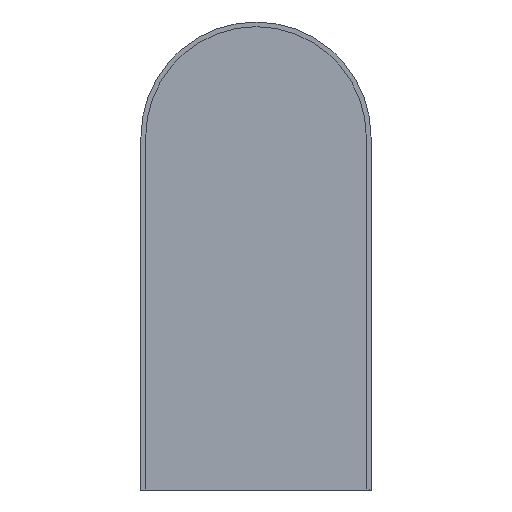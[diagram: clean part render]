
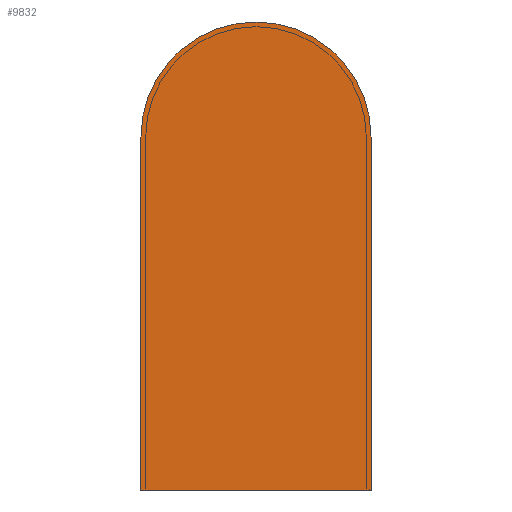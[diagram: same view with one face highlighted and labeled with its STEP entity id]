
A CAD part, left-side view. The second image highlights one B-rep face of the part: STEP entity #9832.
In plain terms, the highlighted planar face has unit normal (-1, 0, 0) as drawn and (0, -1, 0) by its records, which use the part's own axes.
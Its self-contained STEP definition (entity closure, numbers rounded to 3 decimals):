
#165=PLANE('',#10441);
#713=FACE_OUTER_BOUND('',#1285,.T.);
#1285=EDGE_LOOP('',(#7133,#7134,#7135,#7136));
#1954=LINE('',#13817,#3282);
#1959=LINE('',#13831,#3287);
#1962=LINE('',#13836,#3290);
#3282=VECTOR('',#11202,304.8);
#3287=VECTOR('',#11215,304.8);
#3290=VECTOR('',#11220,304.8);
#4576=CIRCLE('',#10436,19.25);
#4679=VERTEX_POINT('',#13815);
#4680=VERTEX_POINT('',#13816);
#4683=VERTEX_POINT('',#13824);
#4685=VERTEX_POINT('',#13830);
#5637=EDGE_CURVE('',#4679,#4680,#1954,.T.);
#5641=EDGE_CURVE('',#4683,#4679,#4576,.T.);
#5644=EDGE_CURVE('',#4685,#4683,#1959,.T.);
#5647=EDGE_CURVE('',#4680,#4685,#1962,.T.);
#7133=ORIENTED_EDGE('',*,*,#5647,.T.);
#7134=ORIENTED_EDGE('',*,*,#5644,.T.);
#7135=ORIENTED_EDGE('',*,*,#5641,.T.);
#7136=ORIENTED_EDGE('',*,*,#5637,.T.);
#9832=ADVANCED_FACE('',(#713),#165,.T.);
#10436=AXIS2_PLACEMENT_3D('',#13825,#11208,#11209);
#10441=AXIS2_PLACEMENT_3D('',#13839,#11224,#11225);
#11202=DIRECTION('',(0.,0.,-1.));
#11208=DIRECTION('center_axis',(0.,-1.,0.));
#11209=DIRECTION('ref_axis',(1.,0.,0.));
#11215=DIRECTION('',(0.,0.,1.));
#11220=DIRECTION('',(1.,0.,0.));
#11224=DIRECTION('center_axis',(0.,-1.,0.));
#11225=DIRECTION('ref_axis',(1.,0.,0.));
#13815=CARTESIAN_POINT('',(-19.25,-303.7,59.068));
#13816=CARTESIAN_POINT('',(-19.25,-303.7,0.));
#13817=CARTESIAN_POINT('',(-19.25,-303.7,59.068));
#13824=CARTESIAN_POINT('',(19.25,-303.7,59.068));
#13825=CARTESIAN_POINT('Origin',(0.,-303.7,
59.068));
#13830=CARTESIAN_POINT('',(19.25,-303.7,0.));
#13831=CARTESIAN_POINT('',(19.25,-303.7,0.));
#13836=CARTESIAN_POINT('',(-19.25,-303.7,0.));
#13839=CARTESIAN_POINT('Origin',(-1506.031,-303.7,0.));
